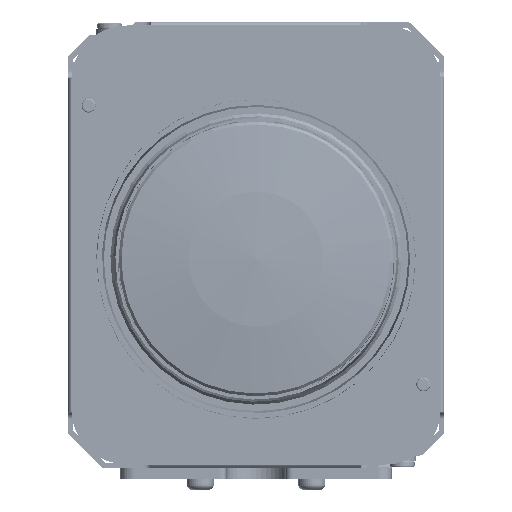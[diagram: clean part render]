
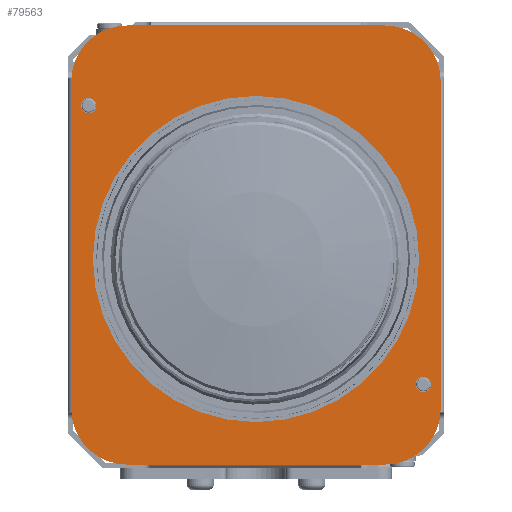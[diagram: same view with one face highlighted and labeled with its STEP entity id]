
A CAD part, left-side view. The second image highlights one B-rep face of the part: STEP entity #79563.
In plain terms, the highlighted planar face has unit normal (-1, 0, 0) as drawn and (0, 0, 1) by its records, which use the part's own axes.
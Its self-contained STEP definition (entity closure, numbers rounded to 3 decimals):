
#79563 = ADVANCED_FACE( '', ( #154443, #154444, #154445, #154446 ), #154447, .T. );
#154443 = FACE_OUTER_BOUND( '', #284735, .T. );
#154444 = FACE_BOUND( '', #284736, .T. );
#154445 = FACE_BOUND( '', #284737, .T. );
#154446 = FACE_BOUND( '', #284738, .T. );
#154447 = PLANE( '', #284739 );
#284735 = EDGE_LOOP( '', ( #457877, #457878, #457879, #457880, #457881, #457882, #457883, #457884 ) );
#284736 = EDGE_LOOP( '', ( #457885 ) );
#284737 = EDGE_LOOP( '', ( #457886 ) );
#284738 = EDGE_LOOP( '', ( #457887 ) );
#284739 = AXIS2_PLACEMENT_3D( '', #457888, #457889, #457890 );
#457877 = ORIENTED_EDGE( '', *, *, #537149, .F. );
#457878 = ORIENTED_EDGE( '', *, *, #561514, .F. );
#457879 = ORIENTED_EDGE( '', *, *, #505241, .F. );
#457880 = ORIENTED_EDGE( '', *, *, #561515, .F. );
#457881 = ORIENTED_EDGE( '', *, *, #561516, .F. );
#457882 = ORIENTED_EDGE( '', *, *, #515095, .F. );
#457883 = ORIENTED_EDGE( '', *, *, #558169, .F. );
#457884 = ORIENTED_EDGE( '', *, *, #561517, .F. );
#457885 = ORIENTED_EDGE( '', *, *, #503227, .F. );
#457886 = ORIENTED_EDGE( '', *, *, #504381, .F. );
#457887 = ORIENTED_EDGE( '', *, *, #540150, .F. );
#457888 = CARTESIAN_POINT( '', ( 0., 0., 57.75 ) );
#457889 = DIRECTION( '', ( 0., 0., 1. ) );
#457890 = DIRECTION( '', ( 1., 0., 0. ) );
#503227 = EDGE_CURVE( '', #575920, #575920, #575921, .T. );
#504381 = EDGE_CURVE( '', #577993, #577993, #577994, .T. );
#505241 = EDGE_CURVE( '', #579530, #579532, #579533, .T. );
#515095 = EDGE_CURVE( '', #596579, #596582, #596583, .T. );
#537149 = EDGE_CURVE( '', #630914, #630916, #630917, .T. );
#540150 = EDGE_CURVE( '', #635157, #635157, #635158, .T. );
#558169 = EDGE_CURVE( '', #658256, #596579, #658257, .T. );
#561514 = EDGE_CURVE( '', #579532, #630914, #662081, .T. );
#561515 = EDGE_CURVE( '', #662082, #579530, #662083, .T. );
#561516 = EDGE_CURVE( '', #596582, #662082, #662084, .T. );
#561517 = EDGE_CURVE( '', #630916, #658256, #662085, .T. );
#575920 = VERTEX_POINT( '', #680802 );
#575921 = CIRCLE( '', #680803, 1.1 );
#577993 = VERTEX_POINT( '', #684051 );
#577994 = CIRCLE( '', #684052, 1.1 );
#579530 = VERTEX_POINT( '', #686379 );
#579532 = VERTEX_POINT( '', #686382 );
#579533 = LINE( '', #686383, #686384 );
#596579 = VERTEX_POINT( '', #713277 );
#596582 = VERTEX_POINT( '', #713281 );
#596583 = CIRCLE( '', #713282, 8. );
#630914 = VERTEX_POINT( '', #770153 );
#630916 = VERTEX_POINT( '', #770156 );
#630917 = LINE( '', #770157, #770158 );
#635157 = VERTEX_POINT( '', #777120 );
#635158 = CIRCLE( '', #777121, 23.4 );
#658256 = VERTEX_POINT( '', #815681 );
#658257 = LINE( '', #815682, #815683 );
#662081 = CIRCLE( '', #821795, 8. );
#662082 = VERTEX_POINT( '', #821796 );
#662083 = CIRCLE( '', #821797, 8. );
#662084 = LINE( '', #821798, #821799 );
#662085 = CIRCLE( '', #821800, 8. );
#680802 = CARTESIAN_POINT( '', ( 25.1, -18., 57.75 ) );
#680803 = AXIS2_PLACEMENT_3D( '', #837063, #837064, #837065 );
#684051 = CARTESIAN_POINT( '', ( -22.9, 22., 57.75 ) );
#684052 = AXIS2_PLACEMENT_3D( '', #838513, #838514, #838515 );
#686379 = CARTESIAN_POINT( '', ( -18.5, 33.5, 57.75 ) );
#686382 = CARTESIAN_POINT( '', ( 18.5, 33.5, 57.75 ) );
#686383 = CARTESIAN_POINT( '', ( -18.5, 33.5, 57.75 ) );
#686384 = VECTOR( '', #839555, 1000. );
#713277 = CARTESIAN_POINT( '', ( -18.5, -29.5, 57.75 ) );
#713281 = CARTESIAN_POINT( '', ( -26.5, -21.5, 57.75 ) );
#713282 = AXIS2_PLACEMENT_3D( '', #851094, #851095, #851096 );
#770153 = CARTESIAN_POINT( '', ( 26.5, 25.5, 57.75 ) );
#770156 = CARTESIAN_POINT( '', ( 26.5, -21.5, 57.75 ) );
#770157 = CARTESIAN_POINT( '', ( 26.5, 25.5, 57.75 ) );
#770158 = VECTOR( '', #875762, 1000. );
#777120 = CARTESIAN_POINT( '', ( 23.4, 0., 57.75 ) );
#777121 = AXIS2_PLACEMENT_3D( '', #879016, #879017, #879018 );
#815681 = CARTESIAN_POINT( '', ( 18.5, -29.5, 57.75 ) );
#815682 = CARTESIAN_POINT( '', ( 18.5, -29.5, 57.75 ) );
#815683 = VECTOR( '', #896466, 1000. );
#821795 = AXIS2_PLACEMENT_3D( '', #899166, #899167, #899168 );
#821796 = CARTESIAN_POINT( '', ( -26.5, 25.5, 57.75 ) );
#821797 = AXIS2_PLACEMENT_3D( '', #899169, #899170, #899171 );
#821798 = CARTESIAN_POINT( '', ( -26.5, -21.5, 57.75 ) );
#821799 = VECTOR( '', #899172, 1000. );
#821800 = AXIS2_PLACEMENT_3D( '', #899173, #899174, #899175 );
#837063 = CARTESIAN_POINT( '', ( 24., -18., 57.75 ) );
#837064 = DIRECTION( '', ( 0., 0., 1. ) );
#837065 = DIRECTION( '', ( 1., 0., 0. ) );
#838513 = CARTESIAN_POINT( '', ( -24., 22., 57.75 ) );
#838514 = DIRECTION( '', ( 0., 0., 1. ) );
#838515 = DIRECTION( '', ( 1., 0., 0. ) );
#839555 = DIRECTION( '', ( 1., 0., 0. ) );
#851094 = CARTESIAN_POINT( '', ( -18.5, -21.5, 57.75 ) );
#851095 = DIRECTION( '', ( 0., 0., -1. ) );
#851096 = DIRECTION( '', ( 0., -1., 0. ) );
#875762 = DIRECTION( '', ( 0., -1., 0. ) );
#879016 = CARTESIAN_POINT( '', ( 0., 0., 57.75 ) );
#879017 = DIRECTION( '', ( 0., 0., 1. ) );
#879018 = DIRECTION( '', ( 1., 0., 0. ) );
#896466 = DIRECTION( '', ( -1., 0., 0. ) );
#899166 = CARTESIAN_POINT( '', ( 18.5, 25.5, 57.75 ) );
#899167 = DIRECTION( '', ( 0., 0., -1. ) );
#899168 = DIRECTION( '', ( 0., 1., 0. ) );
#899169 = CARTESIAN_POINT( '', ( -18.5, 25.5, 57.75 ) );
#899170 = DIRECTION( '', ( 0., 0., -1. ) );
#899171 = DIRECTION( '', ( -1., 0., 0. ) );
#899172 = DIRECTION( '', ( 0., 1., 0. ) );
#899173 = CARTESIAN_POINT( '', ( 18.5, -21.5, 57.75 ) );
#899174 = DIRECTION( '', ( 0., 0., -1. ) );
#899175 = DIRECTION( '', ( 1., 0., 0. ) );
